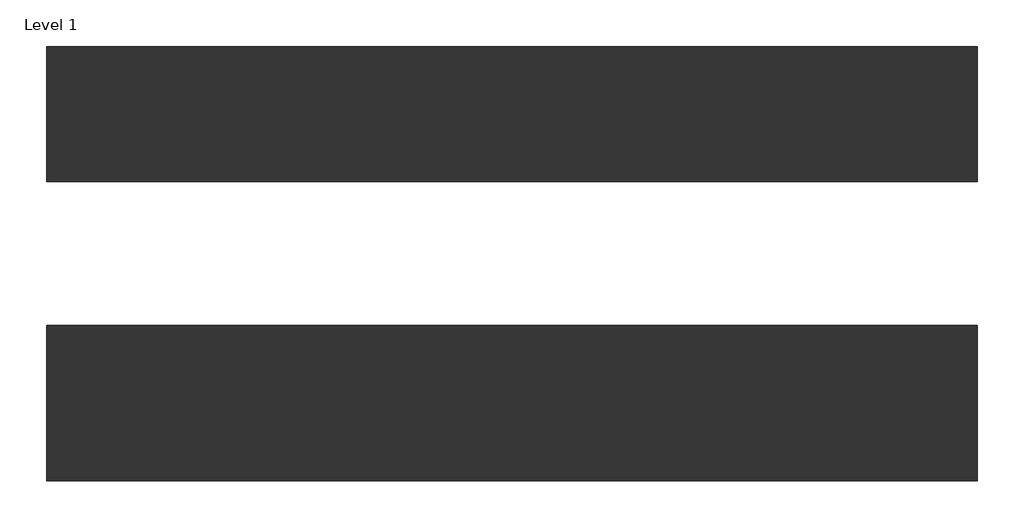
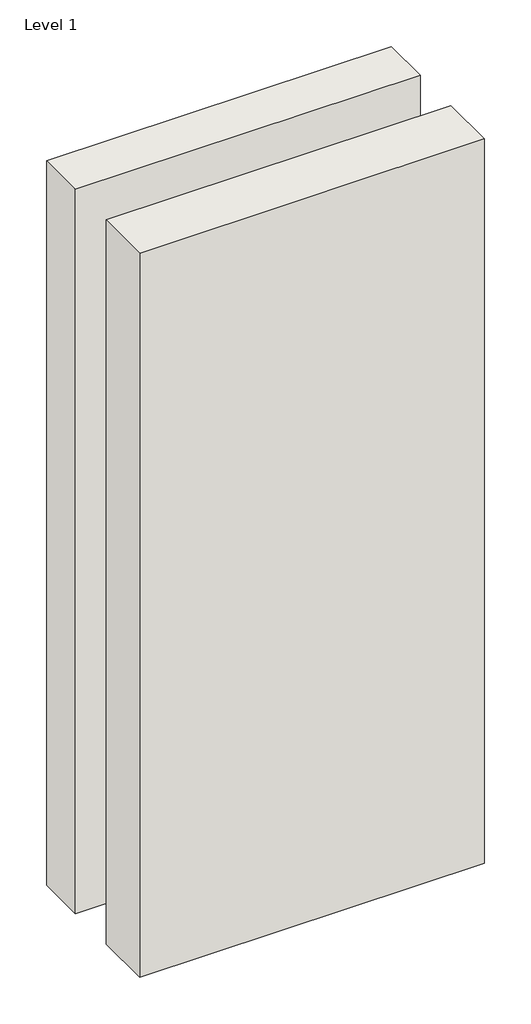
# One storey: 2 walls.
"""IFC4 building model written with IfcOpenShell, lengths in millimetres."""

from ifc_helpers import new_model, si_unit, origin, origin_with_axes, place, context, project, spatial, polyline, outline, extrude, element, save

model = new_model("IFC4")

# Units and contexts
model_context = context("Model", 3, world=origin())
ifc_project = project(units=[si_unit("LENGTHUNIT", "METRE", prefix="MILLI")], contexts=[model_context])

# Site, building, storey
site = spatial("IfcSite", under=ifc_project)
building = spatial("IfcBuilding", under=site)
storey = spatial("IfcBuildingStorey", under=building, Name="Level 1", Elevation=0.0)

# Walls
placement = place(None, origin())
element("IfcWall", 1, ObjectType="Interior-Timber Frame-Party Wall with 41mm Fire Barrier-CSR2465-261mm", at=placement, inside=storey, context=model_context, shape_type="SweptSolid", body=[
    extrude(outline(polyline([(1209.1027791, -2886.0592728), (3009.1027791, -2886.0592728), (3009.1027791, -3147.0592728), (1209.1027791, -3147.0592728), (1209.1027791, -2886.0592728)])), origin_with_axes(), (0.0, 0.0, 1.0), 4000.0),
])
element("IfcWall", 2, ObjectType="Interior-Timber Frame-Party Wall with 41mm Fire Barrier-CSR2465-301mm", at=placement, inside=storey, context=model_context, shape_type="SweptSolid", body=[
    extrude(outline(polyline([(1209.1027791, -3426.0592728), (3009.1027791, -3426.0592728), (3009.1027791, -3727.0592728), (1209.1027791, -3727.0592728), (1209.1027791, -3426.0592728)])), origin_with_axes(), (0.0, 0.0, 1.0), 4000.0),
])

save(model, "model.ifc")
